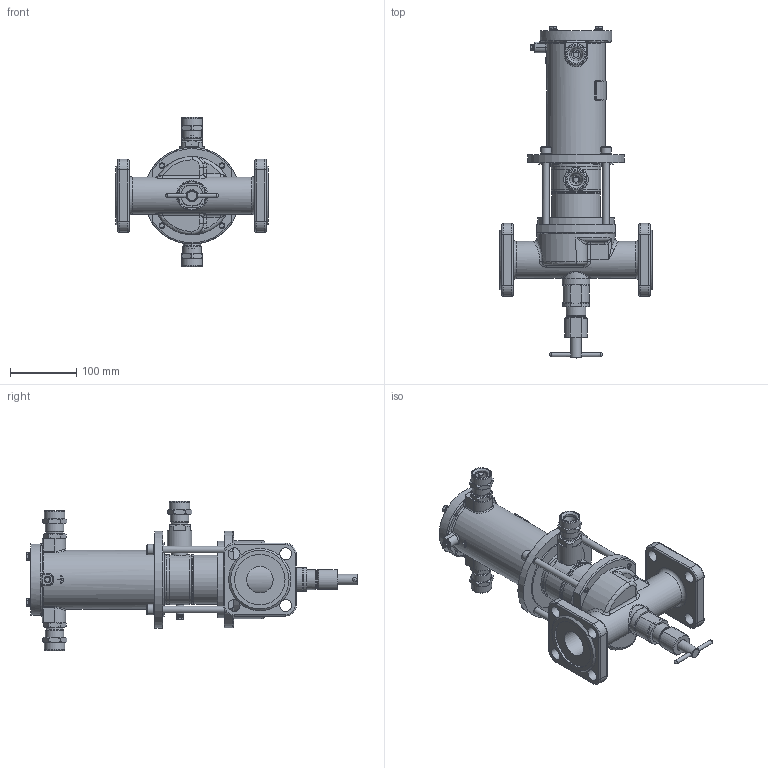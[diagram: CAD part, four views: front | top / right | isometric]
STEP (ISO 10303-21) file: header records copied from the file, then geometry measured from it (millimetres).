
FILE_DESCRIPTION(('STEP AP203'), '1');
FILE_NAME('ÑÅÍÑ DN40PN25-Â-ÄÏ1.stp', '2018-09-19T08:50:22', ('Îðëîâ Å.Â.'), ('ÎÎÎ ÍÏÏ Ñåíñîð'), 'ASCON STEP Converter 1.3', 'Kompas 3D', '');
FILE_SCHEMA(('CONFIG_CONTROL_DESIGN','SUPPORT_RESOURCE_SCHEMA'));
Length unit declared in the file: millimetre
Products named in the file (1): 73
Bounding box: 230 x 500.86 x 225 mm (x, y, z)
Volume: 1858735 mm3; surface area: 499699.8 mm2
Topology: 2 solids, 26 shells, 2172 faces, 5657 edges, 3652 vertices
Faces by surface type: cylinder 1084, plane 809, cone 159, torus 53, bspline 47, extrusion 16, sphere 4
Full cylindrical faces by diameter (mm): 2.459 x1, 3.5 x2, 4.134 x6, 4.917 x4, 5 x2, 5.3 x1, 6 x10, 6.5 x4, 8 x10, 8.2 x1, 8.376 x4, 8.5 x1, 10 x6, 11 x5, 12 x6, 13 x4, 16 x6, 16.004 x2, 17 x2, 17.5 x1, 18 x9, 20 x6, 22 x2, 22.376 x2, 23 x2, 23.5 x3, 24 x3, 24.5 x2, 25 x2, 26 x6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
Entity records: 84272 total; most frequent: CARTESIAN_POINT 29805, DIRECTION 11809, ORIENTED_EDGE 11254, EDGE_CURVE 5627, AXIS2_PLACEMENT_3D 4565, VERTEX_POINT 3652, VECTOR 2679, LINE 2663
